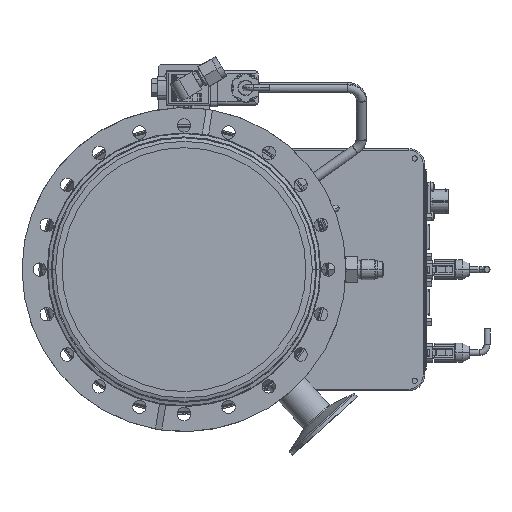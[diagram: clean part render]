
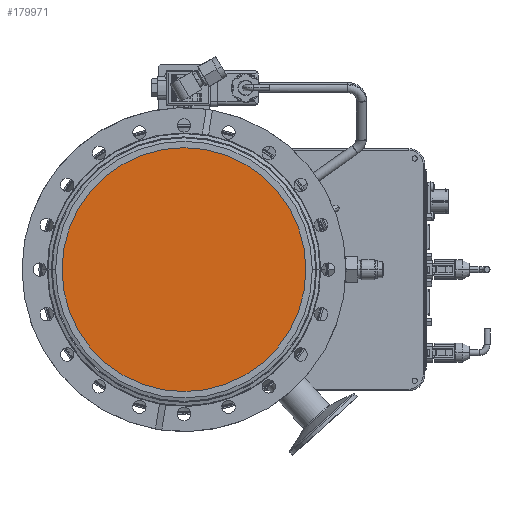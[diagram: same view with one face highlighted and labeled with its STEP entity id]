
A CAD part, left-side view. The second image highlights one B-rep face of the part: STEP entity #179971.
In plain terms, the highlighted planar face has unit normal (-1, 0, 0).
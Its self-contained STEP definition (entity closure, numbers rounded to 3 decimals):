
#63452=CARTESIAN_POINT('',(-186.19,0.,0.));
#63453=DIRECTION('',(-1.,0.,0.));
#63454=DIRECTION('',(0.,1.,0.));
#63455=AXIS2_PLACEMENT_3D('',#63452,#63453,#63454);
#63457=CARTESIAN_POINT('',(-186.19,0.,0.));
#63458=DIRECTION('',(1.,0.,0.));
#63459=DIRECTION('',(0.,1.,0.));
#63460=AXIS2_PLACEMENT_3D('',#63457,#63458,#63459);
#76254=CARTESIAN_POINT('',(-186.19,76.5,0.));
#76256=VERTEX_POINT('',#76254);
#76284=CARTESIAN_POINT('',(-186.19,-76.5,0.));
#76286=VERTEX_POINT('',#76284);
#179962=CARTESIAN_POINT('',(-186.19,0.,0.));
#179963=DIRECTION('',(1.,0.,0.));
#179964=DIRECTION('',(0.,-1.,0.));
#179965=AXIS2_PLACEMENT_3D('',#179962,#179963,#179964);
#179966=PLANE('',#179965);
#179967=ORIENTED_EDGE('',*,*,#179955,.F.);
#179968=ORIENTED_EDGE('',*,*,#179944,.T.);
#179969=EDGE_LOOP('',(#179967,#179968));
#179970=FACE_OUTER_BOUND('',#179969,.F.);
#179971=ADVANCED_FACE('',(#179970),#179966,.F.);
#63456=CIRCLE('',#63455,76.5);
#63461=CIRCLE('',#63460,76.5);
#179944=EDGE_CURVE('',#76256,#76286,#63461,.T.);
#179955=EDGE_CURVE('',#76256,#76286,#63456,.T.);
